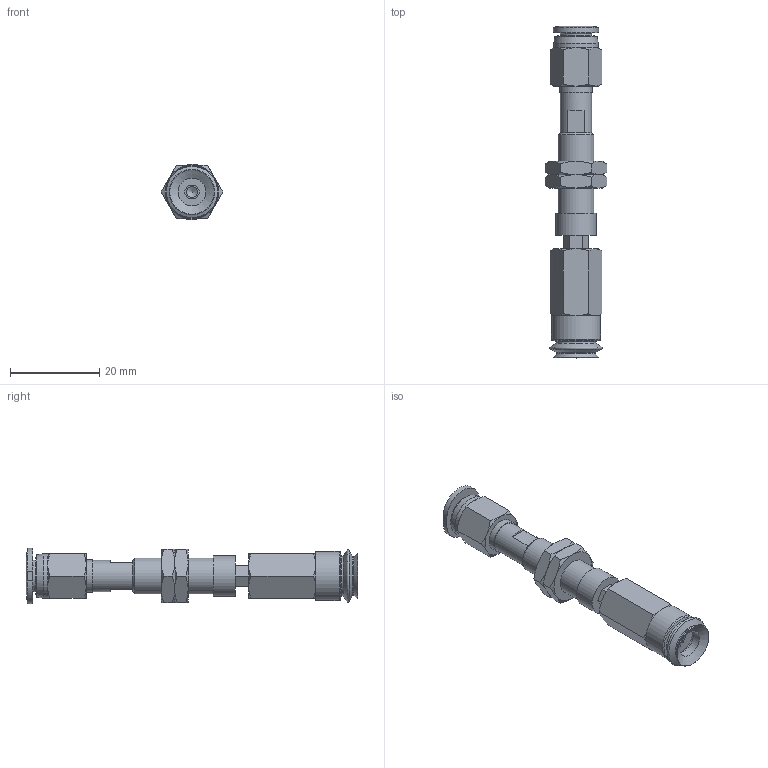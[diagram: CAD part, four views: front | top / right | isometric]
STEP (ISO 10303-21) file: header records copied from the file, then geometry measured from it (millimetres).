
FILE_DESCRIPTION(('STEP AP203'),'1');
FILE_NAME('-O.stp','2025-08-27T06:45:34',(' '),(' '),'Spatial InterOp 3D',' ',' ');
FILE_SCHEMA(('CONFIG_CONTROL_DESIGN'));
Length unit declared in the file: millimetre
Products named in the file (8): BNABPJTH-10-3-※-O; ADAPTER; NAPCTH-10-3-MBODY; Adapter-10-NAPJ; NAPJH-10-3-NUT; NAPJTH-10-3-FBODY; BPJG-10-※; PC-C_06-M5
Assembly tree (8 placements, depth 2):
  BNABPJTH-10-3-※-O
    ADAPTER
    NAPCTH-10-3-MBODY
    Adapter-10-NAPJ
    NAPJH-10-3-NUT  x2
    NAPJTH-10-3-FBODY
    BPJG-10-※
    PC-C_06-M5
Bounding box: 13.86 x 74.48 x 12.4 mm (x, y, z)
Volume: 3898.1 mm3; surface area: 5472.7 mm2
Topology: 7 solids, 10 shells, 183 faces, 387 edges, 235 vertices
Faces by surface type: plane 77, cone 67, cylinder 23, torus 9, bspline 4, revolution 3
Full cylindrical faces by diameter (mm): 2.5 x1, 4 x2, 4.134 x2, 4.6 x1, 5 x2, 6.266 x1, 7 x2, 7.188 x2, 7.4 x1, 7.8 x1, 8 x2, 8.2 x1, 9 x1, 10 x1, 11 x1
Entity records: 4956 total; most frequent: CARTESIAN_POINT 1485, DIRECTION 635, ORIENTED_EDGE 554, EDGE_CURVE 279, AXIS2_PLACEMENT_3D 270, EDGE_LOOP 230, VERTEX_POINT 196, FACE_OUTER_BOUND 129
